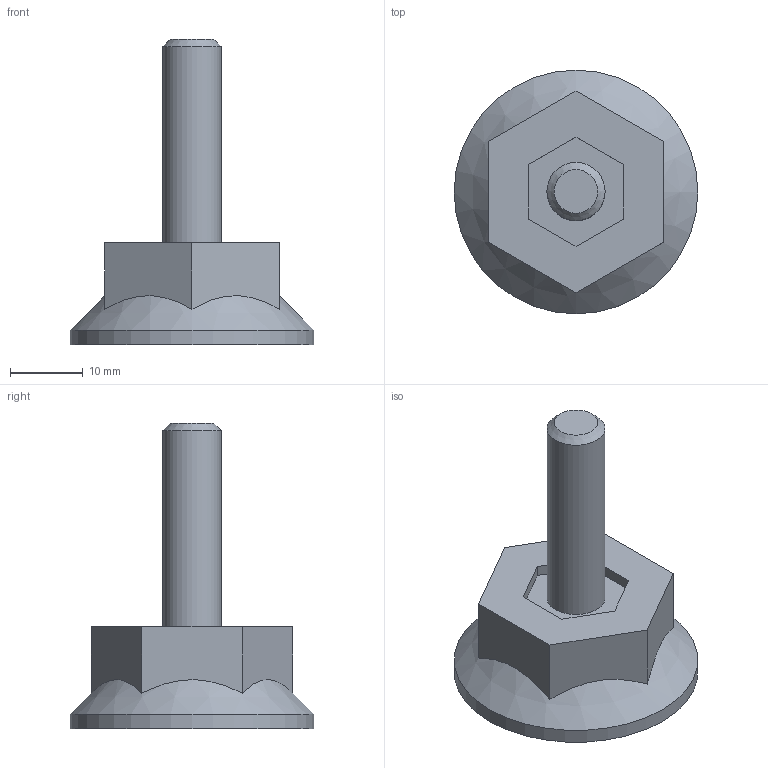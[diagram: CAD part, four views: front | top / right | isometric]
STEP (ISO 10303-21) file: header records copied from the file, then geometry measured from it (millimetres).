
FILE_DESCRIPTION( ('This file contains a STEP AP42 implementation' ,'as created by ZW3D STEP Interface translator.') ,'2;1' );
FILE_NAME( 'Stopka stala D34.stp' ,'26 812.15 3 8', (''), ('ZWCAD Software Co.'), 'Version 1.0', 'ZW3D to STEP translator', '' );
FILE_SCHEMA(('AP242_MANAGED_MODEL_BASED_3D_ENGINEERING_MIM_LF { 1 0 10303 442 1 1 4 }'));
Length unit declared in the file: millimetre
Products named in the file (1): 0
Bounding box: 33.5 x 33.5 x 42 mm (x, y, z)
Volume: 9768.8 mm3; surface area: 4368.5 mm2
Topology: 2 solids, 2 shells, 28 faces, 64 edges, 42 vertices
Faces by surface type: plane 24, cylinder 2, cone 2
Full cylindrical faces by diameter (mm): 8 x1, 33.5 x1
Entity records: 816 total; most frequent: CARTESIAN_POINT 149, ORIENTED_EDGE 128, DIRECTION 120, EDGE_CURVE 64, VECTOR 52, LINE 52, VERTEX_POINT 42, AXIS2_PLACEMENT_3D 34
